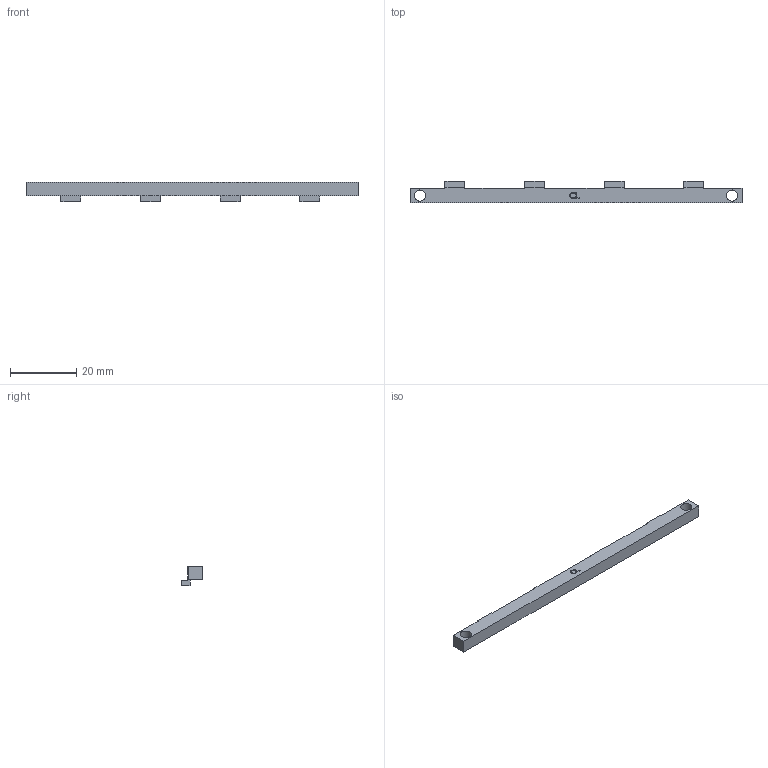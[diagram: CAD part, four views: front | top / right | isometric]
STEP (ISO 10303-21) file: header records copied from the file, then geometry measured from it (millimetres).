
FILE_DESCRIPTION(('Open CASCADE Model'),'2;1');
FILE_NAME('Open CASCADE Shape Model','2026-10-07T10:51:43',('Author'),( 'Open CASCADE'),'Open CASCADE STEP processor 7.8','Open CASCADE 7.8' ,'Unknown');
FILE_SCHEMA(('AUTOMOTIVE_DESIGN { 1 0 10303 214 1 1 1 1 }'));
Length unit declared in the file: millimetre
Products named in the file (1): Open CASCADE STEP translator 7.8 7
Bounding box: 100 x 6.6 x 5.8 mm (x, y, z)
Volume: 1812.8 mm3; surface area: 2006.5 mm2
Topology: 1 solids, 1 shells, 66 faces, 186 edges, 124 vertices
Faces by surface type: plane 48, extrusion 16, cylinder 2
Full cylindrical faces by diameter (mm): 3.4 x2
Entity records: 4787 total; most frequent: CARTESIAN_POINT 1262, DIRECTION 552, VECTOR 438, LINE 422, ORIENTED_EDGE 372, PCURVE 372, DEFINITIONAL_REPRESENTATION 372, EDGE_CURVE 186
